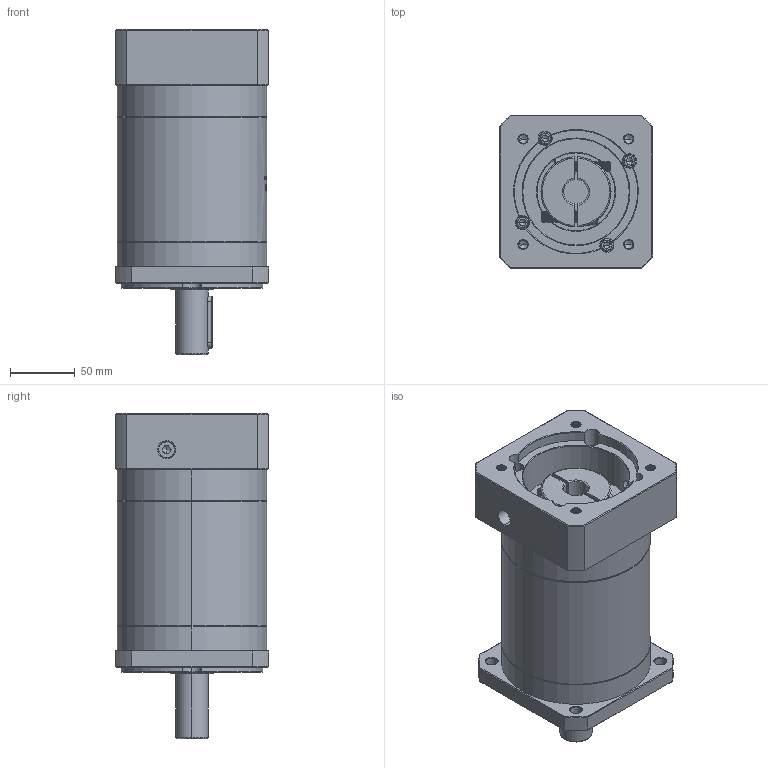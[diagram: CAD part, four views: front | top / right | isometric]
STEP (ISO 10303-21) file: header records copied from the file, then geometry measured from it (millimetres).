
FILE_DESCRIPTION (( 'STEP AP214' ), '1' );
FILE_NAME ('ZF120A-D25-L3-19-95-115-M8.step', '2023-03-07T09:30:46', ( '' ), ( '' ), 'SwSTEP 2.0', 'SolidWorks 2016', '' );
FILE_SCHEMA (( 'AUTOMOTIVE_DESIGN' ));
Length unit declared in the file: millimetre
Products named in the file (1): ZF120A-D25-L3-19-95-115-M8
Bounding box: 118 x 118 x 250.5 mm (x, y, z)
Volume: 2054911 mm3; surface area: 185980.1 mm2
Topology: 6 solids, 6 shells, 1967 faces, 5183 edges, 3310 vertices
Faces by surface type: plane 857, cylinder 429, bspline 341, cone 340
Entity records: 107860 total; most frequent: CARTESIAN_POINT 41462, ORIENTED_EDGE 10306, DIRECTION 7988, EDGE_CURVE 5153, VERTEX_POINT 3310, LINE 2758, VECTOR 2758, AXIS2_PLACEMENT_3D 2615
